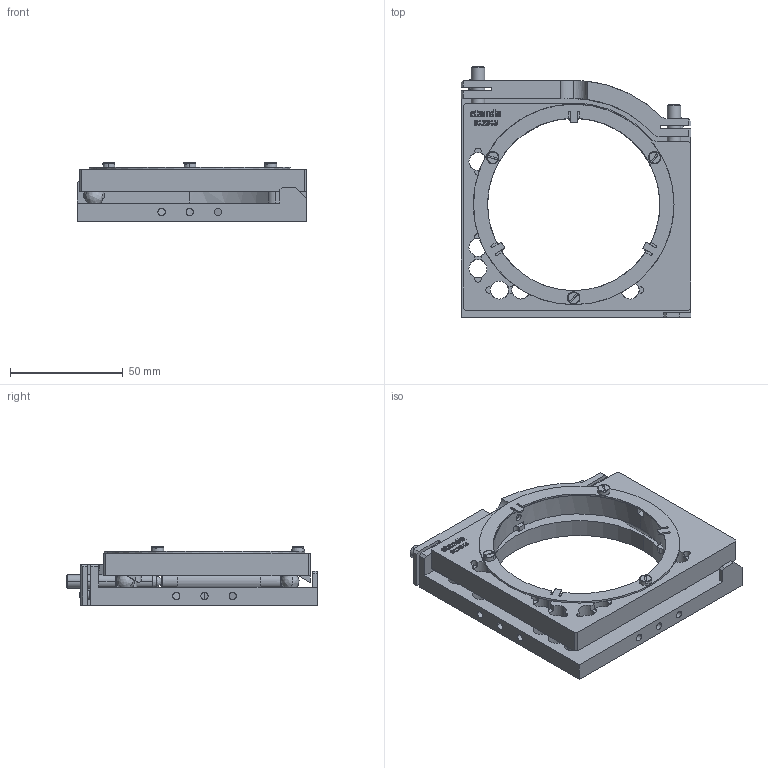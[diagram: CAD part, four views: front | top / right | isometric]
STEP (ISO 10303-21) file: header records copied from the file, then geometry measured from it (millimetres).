
FILE_DESCRIPTION (( 'STEP AP203' ), '1' );
FILE_NAME ('5KVDOM-3.STEP', '2011-10-21T12:45:32', ( 'Darius' ), ( '' ), 'SwSTEP 2.0', 'SolidWorks 2003240', '' );
FILE_SCHEMA (( 'CONFIG_CONTROL_DESIGN' ));
Length unit declared in the file: millimetre
Products named in the file (1): 5KVDOM-3
Bounding box: 102 x 111.08 x 25.8 mm (x, y, z)
Volume: 89805.6 mm3; surface area: 38021.3 mm2
Topology: 1 solids, 1 shells, 694 faces, 1944 edges, 1277 vertices
Faces by surface type: plane 354, cylinder 163, bspline 139, cone 38
Entity records: 29052 total; most frequent: CARTESIAN_POINT 11674, ORIENTED_EDGE 3884, DIRECTION 3186, EDGE_CURVE 1942, VERTEX_POINT 1277, LINE 1096, VECTOR 1096, AXIS2_PLACEMENT_3D 1045
